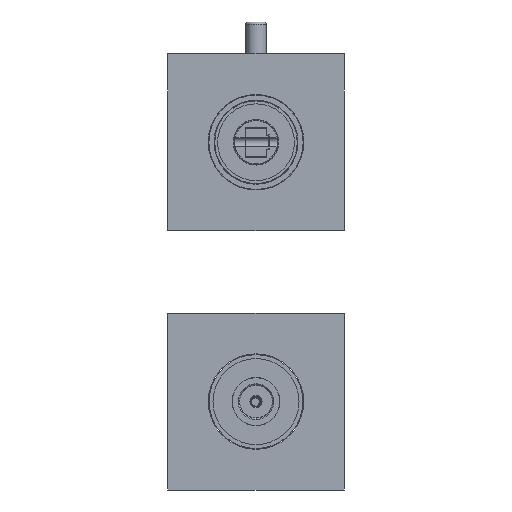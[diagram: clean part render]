
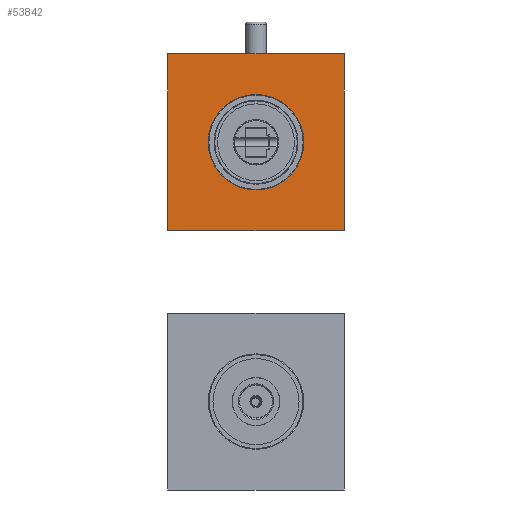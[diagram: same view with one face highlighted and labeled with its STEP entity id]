
A CAD part, front view. The second image highlights one B-rep face of the part: STEP entity #53842.
In plain terms, the highlighted planar face has unit normal (0, -1, 0).
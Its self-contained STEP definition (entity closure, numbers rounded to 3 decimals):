
#53721=DIRECTION('',(-1.,0.,0.));
#53722=VECTOR('',#53721,75.);
#53723=CARTESIAN_POINT('',(37.5,80.,-105.));
#53724=LINE('',#53723,#53722);
#53725=DIRECTION('',(0.,0.,1.));
#53726=VECTOR('',#53725,75.);
#53727=CARTESIAN_POINT('',(-37.5,80.,-105.));
#53728=LINE('',#53727,#53726);
#53729=DIRECTION('',(1.,0.,0.));
#53730=VECTOR('',#53729,75.);
#53731=CARTESIAN_POINT('',(-37.5,80.,-30.));
#53732=LINE('',#53731,#53730);
#53733=DIRECTION('',(0.,0.,-1.));
#53734=VECTOR('',#53733,75.);
#53735=CARTESIAN_POINT('',(37.5,80.,-30.));
#53736=LINE('',#53735,#53734);
#53737=CARTESIAN_POINT('',(0.,80.,-67.5));
#53738=DIRECTION('',(0.,1.,0.));
#53739=DIRECTION('',(-1.,0.,0.));
#53740=AXIS2_PLACEMENT_3D('',#53737,#53738,#53739);
#53742=CARTESIAN_POINT('',(0.,80.,-67.5));
#53743=DIRECTION('',(0.,1.,0.));
#53744=DIRECTION('',(1.,0.,0.));
#53745=AXIS2_PLACEMENT_3D('',#53742,#53743,#53744);
#53797=CARTESIAN_POINT('',(-20.25,80.,-67.5));
#53798=CARTESIAN_POINT('',(20.25,80.,-67.5));
#53799=VERTEX_POINT('',#53797);
#53800=VERTEX_POINT('',#53798);
#53805=CARTESIAN_POINT('',(37.5,80.,-105.));
#53806=CARTESIAN_POINT('',(-37.5,80.,-105.));
#53807=VERTEX_POINT('',#53805);
#53808=VERTEX_POINT('',#53806);
#53809=CARTESIAN_POINT('',(-37.5,80.,-30.));
#53810=VERTEX_POINT('',#53809);
#53811=CARTESIAN_POINT('',(37.5,80.,-30.));
#53812=VERTEX_POINT('',#53811);
#53821=CARTESIAN_POINT('',(0.,80.,-67.5));
#53822=DIRECTION('',(0.,1.,0.));
#53823=DIRECTION('',(-1.,0.,0.));
#53824=AXIS2_PLACEMENT_3D('',#53821,#53822,#53823);
#53825=PLANE('',#53824);
#53827=ORIENTED_EDGE('',*,*,#53826,.T.);
#53829=ORIENTED_EDGE('',*,*,#53828,.T.);
#53831=ORIENTED_EDGE('',*,*,#53830,.T.);
#53833=ORIENTED_EDGE('',*,*,#53832,.T.);
#53834=EDGE_LOOP('',(#53827,#53829,#53831,#53833));
#53835=FACE_OUTER_BOUND('',#53834,.F.);
#53837=ORIENTED_EDGE('',*,*,#53836,.F.);
#53839=ORIENTED_EDGE('',*,*,#53838,.F.);
#53840=EDGE_LOOP('',(#53837,#53839));
#53841=FACE_BOUND('',#53840,.F.);
#53842=ADVANCED_FACE('',(#53835,#53841),#53825,.F.);
#53741=CIRCLE('',#53740,20.25);
#53746=CIRCLE('',#53745,20.25);
#53826=EDGE_CURVE('',#53807,#53808,#53724,.T.);
#53828=EDGE_CURVE('',#53808,#53810,#53728,.T.);
#53830=EDGE_CURVE('',#53810,#53812,#53732,.T.);
#53832=EDGE_CURVE('',#53812,#53807,#53736,.T.);
#53836=EDGE_CURVE('',#53799,#53800,#53741,.T.);
#53838=EDGE_CURVE('',#53800,#53799,#53746,.T.);
